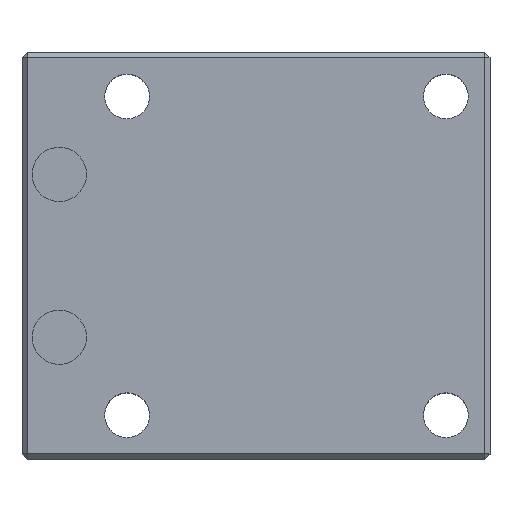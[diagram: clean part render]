
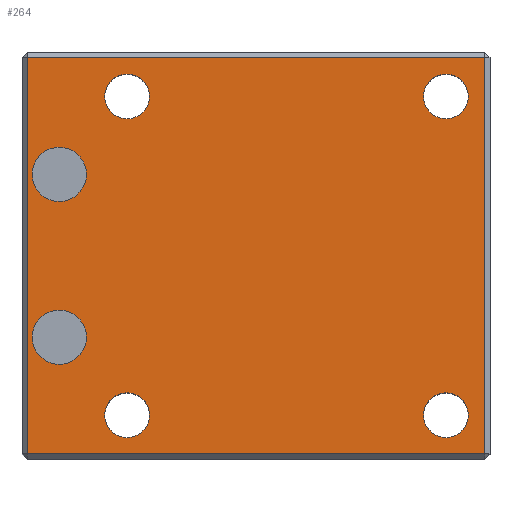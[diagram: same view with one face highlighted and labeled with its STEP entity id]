
A CAD part, top view. The second image highlights one B-rep face of the part: STEP entity #264.
In plain terms, the highlighted planar face has unit normal (0, 0, 1).
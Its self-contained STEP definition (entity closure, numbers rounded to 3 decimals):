
#11 = DIRECTION ( 'NONE',  ( 0., -1., 0. ) ) ;
#12 = ORIENTED_EDGE ( 'NONE', *, *, #1899, .T. ) ;
#22 = EDGE_CURVE ( 'NONE', #341, #34, #927, .T. ) ;
#34 = VERTEX_POINT ( 'NONE', #1387 ) ;
#38 = CIRCLE ( 'NONE', #576, 4. ) ;
#42 = CIRCLE ( 'NONE', #1236, 4. ) ;
#72 = AXIS2_PLACEMENT_3D ( 'NONE', #1870, #1115, #504 ) ;
#102 = DIRECTION ( 'NONE',  ( 1., 0., 0. ) ) ;
#109 = DIRECTION ( 'NONE',  ( 1., 0., 0. ) ) ;
#113 = DIRECTION ( 'NONE',  ( 1., 0., 0. ) ) ;
#124 = EDGE_LOOP ( 'NONE', ( #1181, #1200 ) ) ;
#128 = CARTESIAN_POINT ( 'NONE',  ( -39., 29.2, 97. ) ) ;
#142 = EDGE_CURVE ( 'NONE', #1011, #1292, #449, .T. ) ;
#193 = CIRCLE ( 'NONE', #1189, 3.3 ) ;
#197 = FACE_BOUND ( 'NONE', #1514, .T. ) ;
#264 = ADVANCED_FACE ( 'NONE', ( #1078, #1896, #1417, #352, #197, #1608, #1294 ), #1744, .T. ) ;
#289 = ORIENTED_EDGE ( 'NONE', *, *, #1507, .F. ) ;
#291 = CIRCLE ( 'NONE', #72, 3.3 ) ;
#295 = CARTESIAN_POINT ( 'NONE',  ( 29.2, 30., 97. ) ) ;
#320 = CARTESIAN_POINT ( 'NONE',  ( -38.2, -29.2, 97. ) ) ;
#341 = VERTEX_POINT ( 'NONE', #628 ) ;
#348 = EDGE_LOOP ( 'NONE', ( #1969, #1687 ) ) ;
#352 = FACE_BOUND ( 'NONE', #1890, .T. ) ;
#366 = DIRECTION ( 'NONE',  ( 1., 0., 0. ) ) ;
#385 = DIRECTION ( 'NONE',  ( 0., 0., 1. ) ) ;
#386 = VERTEX_POINT ( 'NONE', #963 ) ;
#391 = CARTESIAN_POINT ( 'NONE',  ( -33.5, -12., 97. ) ) ;
#402 = DIRECTION ( 'NONE',  ( 1., 0., 0. ) ) ;
#405 = CARTESIAN_POINT ( 'NONE',  ( -23.5, -23.5, 97. ) ) ;
#408 = EDGE_CURVE ( 'NONE', #1455, #1446, #193, .T. ) ;
#415 = AXIS2_PLACEMENT_3D ( 'NONE', #878, #574, #888 ) ;
#449 = LINE ( 'NONE', #926, #965 ) ;
#457 = AXIS2_PLACEMENT_3D ( 'NONE', #1499, #1505, #113 ) ;
#467 = EDGE_CURVE ( 'NONE', #1101, #826, #1028, .T. ) ;
#479 = DIRECTION ( 'NONE',  ( 1., 0., 0. ) ) ;
#483 = AXIS2_PLACEMENT_3D ( 'NONE', #405, #1019, #102 ) ;
#486 = VERTEX_POINT ( 'NONE', #1323 ) ;
#491 = VECTOR ( 'NONE', #1490, 1000. ) ;
#498 = VERTEX_POINT ( 'NONE', #1932 ) ;
#503 = EDGE_CURVE ( 'NONE', #1913, #691, #1617, .T. ) ;
#504 = DIRECTION ( 'NONE',  ( 1., 0., 0. ) ) ;
#517 = AXIS2_PLACEMENT_3D ( 'NONE', #1923, #568, #870 ) ;
#539 = EDGE_CURVE ( 'NONE', #1292, #341, #1916, .T. ) ;
#547 = DIRECTION ( 'NONE',  ( 0., 0., 1. ) ) ;
#564 = EDGE_CURVE ( 'NONE', #386, #602, #1894, .T. ) ;
#568 = DIRECTION ( 'NONE',  ( 0., 0., 1. ) ) ;
#571 = CARTESIAN_POINT ( 'NONE',  ( 20.2, -23.5, 97. ) ) ;
#574 = DIRECTION ( 'NONE',  ( 0., 0., 1. ) ) ;
#576 = AXIS2_PLACEMENT_3D ( 'NONE', #1600, #385, #1736 ) ;
#602 = VERTEX_POINT ( 'NONE', #1945 ) ;
#606 = EDGE_CURVE ( 'NONE', #1543, #486, #1799, .T. ) ;
#628 = CARTESIAN_POINT ( 'NONE',  ( 29.2, -29.2, 97. ) ) ;
#635 = DIRECTION ( 'NONE',  ( 1., 0., 0. ) ) ;
#641 = VECTOR ( 'NONE', #1677, 1000. ) ;
#668 = ORIENTED_EDGE ( 'NONE', *, *, #22, .T. ) ;
#691 = VERTEX_POINT ( 'NONE', #881 ) ;
#702 = AXIS2_PLACEMENT_3D ( 'NONE', #1773, #727, #900 ) ;
#727 = DIRECTION ( 'NONE',  ( 0., 0., 1. ) ) ;
#742 = ORIENTED_EDGE ( 'NONE', *, *, #606, .F. ) ;
#758 = EDGE_CURVE ( 'NONE', #826, #1101, #1000, .T. ) ;
#763 = VECTOR ( 'NONE', #402, 1000. ) ;
#815 = EDGE_LOOP ( 'NONE', ( #668, #12, #849, #1194 ) ) ;
#818 = EDGE_CURVE ( 'NONE', #486, #1543, #1642, .T. ) ;
#826 = VERTEX_POINT ( 'NONE', #1525 ) ;
#849 = ORIENTED_EDGE ( 'NONE', *, *, #142, .T. ) ;
#861 = CARTESIAN_POINT ( 'NONE',  ( 30., -29.2, 97. ) ) ;
#869 = CARTESIAN_POINT ( 'NONE',  ( -26.8, 23.5, 97. ) ) ;
#870 = DIRECTION ( 'NONE',  ( 1., 0., 0. ) ) ;
#877 = CARTESIAN_POINT ( 'NONE',  ( -20.2, -23.5, 97. ) ) ;
#878 = CARTESIAN_POINT ( 'NONE',  ( -23.5, -23.5, 97. ) ) ;
#881 = CARTESIAN_POINT ( 'NONE',  ( 26.8, -23.5, 97. ) ) ;
#888 = DIRECTION ( 'NONE',  ( 1., 0., 0. ) ) ;
#889 = ORIENTED_EDGE ( 'NONE', *, *, #564, .F. ) ;
#900 = DIRECTION ( 'NONE',  ( 1., 0., 0. ) ) ;
#919 = EDGE_LOOP ( 'NONE', ( #742, #960 ) ) ;
#926 = CARTESIAN_POINT ( 'NONE',  ( -38.2, -30., 97. ) ) ;
#927 = LINE ( 'NONE', #295, #641 ) ;
#938 = CIRCLE ( 'NONE', #457, 3.3 ) ;
#960 = ORIENTED_EDGE ( 'NONE', *, *, #818, .F. ) ;
#963 = CARTESIAN_POINT ( 'NONE',  ( 20.2, 23.5, 97. ) ) ;
#965 = VECTOR ( 'NONE', #11, 1000. ) ;
#980 = VERTEX_POINT ( 'NONE', #1280 ) ;
#1000 = CIRCLE ( 'NONE', #1427, 4. ) ;
#1010 = DIRECTION ( 'NONE',  ( 1., 0., 0. ) ) ;
#1011 = VERTEX_POINT ( 'NONE', #1266 ) ;
#1018 = EDGE_CURVE ( 'NONE', #691, #1913, #291, .T. ) ;
#1019 = DIRECTION ( 'NONE',  ( 0., 0., 1. ) ) ;
#1028 = CIRCLE ( 'NONE', #1674, 4. ) ;
#1078 = FACE_OUTER_BOUND ( 'NONE', #815, .T. ) ;
#1101 = VERTEX_POINT ( 'NONE', #1282 ) ;
#1106 = ORIENTED_EDGE ( 'NONE', *, *, #1658, .F. ) ;
#1115 = DIRECTION ( 'NONE',  ( 0., 0., 1. ) ) ;
#1124 = CARTESIAN_POINT ( 'NONE',  ( -23.5, 23.5, 97. ) ) ;
#1134 = EDGE_CURVE ( 'NONE', #498, #980, #38, .T. ) ;
#1135 = CARTESIAN_POINT ( 'NONE',  ( -23.5, 23.5, 97. ) ) ;
#1177 = EDGE_CURVE ( 'NONE', #1446, #1455, #1620, .T. ) ;
#1181 = ORIENTED_EDGE ( 'NONE', *, *, #1018, .F. ) ;
#1183 = DIRECTION ( 'NONE',  ( 0., 0., 1. ) ) ;
#1189 = AXIS2_PLACEMENT_3D ( 'NONE', #1124, #1614, #1340 ) ;
#1194 = ORIENTED_EDGE ( 'NONE', *, *, #539, .T. ) ;
#1200 = ORIENTED_EDGE ( 'NONE', *, *, #503, .F. ) ;
#1236 = AXIS2_PLACEMENT_3D ( 'NONE', #1691, #1537, #635 ) ;
#1266 = CARTESIAN_POINT ( 'NONE',  ( -38.2, 29.2, 97. ) ) ;
#1280 = CARTESIAN_POINT ( 'NONE',  ( -29.5, 12., 97. ) ) ;
#1282 = CARTESIAN_POINT ( 'NONE',  ( -37.5, -12., 97. ) ) ;
#1292 = VERTEX_POINT ( 'NONE', #320 ) ;
#1294 = FACE_BOUND ( 'NONE', #348, .T. ) ;
#1323 = CARTESIAN_POINT ( 'NONE',  ( -26.8, -23.5, 97. ) ) ;
#1340 = DIRECTION ( 'NONE',  ( 1., 0., 0. ) ) ;
#1357 = CARTESIAN_POINT ( 'NONE',  ( -20.2, 23.5, 97. ) ) ;
#1387 = CARTESIAN_POINT ( 'NONE',  ( 29.2, 29.2, 97. ) ) ;
#1417 = FACE_BOUND ( 'NONE', #124, .T. ) ;
#1427 = AXIS2_PLACEMENT_3D ( 'NONE', #1917, #547, #1010 ) ;
#1443 = CARTESIAN_POINT ( 'NONE',  ( 0., 0., 97. ) ) ;
#1446 = VERTEX_POINT ( 'NONE', #1357 ) ;
#1455 = VERTEX_POINT ( 'NONE', #869 ) ;
#1490 = DIRECTION ( 'NONE',  ( -1., 0., 0. ) ) ;
#1499 = CARTESIAN_POINT ( 'NONE',  ( 23.5, 23.5, 97. ) ) ;
#1505 = DIRECTION ( 'NONE',  ( 0., 0., 1. ) ) ;
#1507 = EDGE_CURVE ( 'NONE', #602, #386, #938, .T. ) ;
#1514 = EDGE_LOOP ( 'NONE', ( #1746, #1738 ) ) ;
#1519 = AXIS2_PLACEMENT_3D ( 'NONE', #1135, #1749, #366 ) ;
#1525 = CARTESIAN_POINT ( 'NONE',  ( -29.5, -12., 97. ) ) ;
#1537 = DIRECTION ( 'NONE',  ( 0., 0., 1. ) ) ;
#1543 = VERTEX_POINT ( 'NONE', #877 ) ;
#1566 = EDGE_LOOP ( 'NONE', ( #1106, #1671 ) ) ;
#1586 = DIRECTION ( 'NONE',  ( 0., 0., 1. ) ) ;
#1600 = CARTESIAN_POINT ( 'NONE',  ( -33.5, 12., 97. ) ) ;
#1608 = FACE_BOUND ( 'NONE', #1566, .T. ) ;
#1614 = DIRECTION ( 'NONE',  ( 0., 0., 1. ) ) ;
#1617 = CIRCLE ( 'NONE', #517, 3.3 ) ;
#1620 = CIRCLE ( 'NONE', #1519, 3.3 ) ;
#1639 = AXIS2_PLACEMENT_3D ( 'NONE', #1443, #1586, #479 ) ;
#1642 = CIRCLE ( 'NONE', #483, 3.3 ) ;
#1658 = EDGE_CURVE ( 'NONE', #980, #498, #42, .T. ) ;
#1671 = ORIENTED_EDGE ( 'NONE', *, *, #1134, .F. ) ;
#1674 = AXIS2_PLACEMENT_3D ( 'NONE', #391, #1183, #109 ) ;
#1677 = DIRECTION ( 'NONE',  ( 0., 1., 0. ) ) ;
#1687 = ORIENTED_EDGE ( 'NONE', *, *, #467, .F. ) ;
#1691 = CARTESIAN_POINT ( 'NONE',  ( -33.5, 12., 97. ) ) ;
#1736 = DIRECTION ( 'NONE',  ( 1., 0., 0. ) ) ;
#1738 = ORIENTED_EDGE ( 'NONE', *, *, #408, .F. ) ;
#1744 = PLANE ( 'NONE',  #1639 ) ;
#1746 = ORIENTED_EDGE ( 'NONE', *, *, #1177, .F. ) ;
#1749 = DIRECTION ( 'NONE',  ( 0., 0., 1. ) ) ;
#1773 = CARTESIAN_POINT ( 'NONE',  ( 23.5, 23.5, 97. ) ) ;
#1799 = CIRCLE ( 'NONE', #415, 3.3 ) ;
#1870 = CARTESIAN_POINT ( 'NONE',  ( 23.5, -23.5, 97. ) ) ;
#1890 = EDGE_LOOP ( 'NONE', ( #289, #889 ) ) ;
#1894 = CIRCLE ( 'NONE', #702, 3.3 ) ;
#1896 = FACE_BOUND ( 'NONE', #919, .T. ) ;
#1899 = EDGE_CURVE ( 'NONE', #34, #1011, #1965, .T. ) ;
#1913 = VERTEX_POINT ( 'NONE', #571 ) ;
#1916 = LINE ( 'NONE', #861, #763 ) ;
#1917 = CARTESIAN_POINT ( 'NONE',  ( -33.5, -12., 97. ) ) ;
#1923 = CARTESIAN_POINT ( 'NONE',  ( 23.5, -23.5, 97. ) ) ;
#1932 = CARTESIAN_POINT ( 'NONE',  ( -37.5, 12., 97. ) ) ;
#1945 = CARTESIAN_POINT ( 'NONE',  ( 26.8, 23.5, 97. ) ) ;
#1965 = LINE ( 'NONE', #128, #491 ) ;
#1969 = ORIENTED_EDGE ( 'NONE', *, *, #758, .F. ) ;
